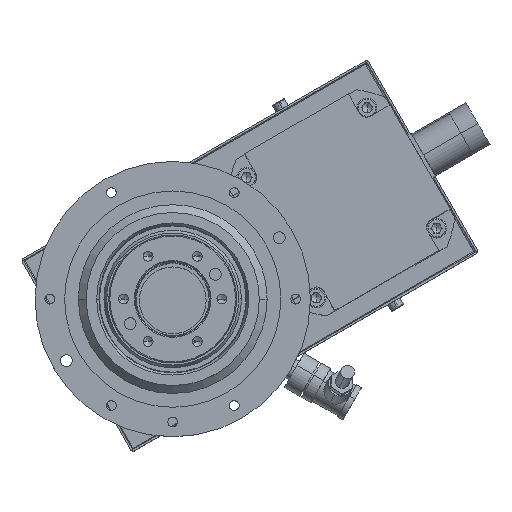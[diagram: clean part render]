
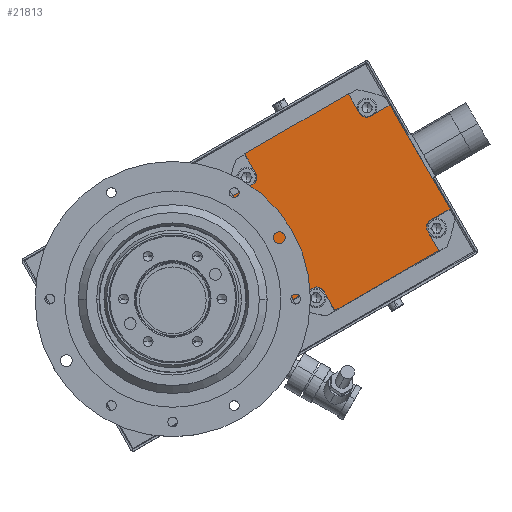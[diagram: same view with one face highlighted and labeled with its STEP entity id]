
A CAD part, top view. The second image highlights one B-rep face of the part: STEP entity #21813.
In plain terms, the highlighted planar face has unit normal (0, 0, 1).
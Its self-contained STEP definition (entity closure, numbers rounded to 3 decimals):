
#408 = DIRECTION ( 'NONE',  ( 0., 0., -1. ) ) ;
#491 = ORIENTED_EDGE ( 'NONE', *, *, #8207, .T. ) ;
#828 = ORIENTED_EDGE ( 'NONE', *, *, #12416, .T. ) ;
#874 = PLANE ( 'NONE',  #19585 ) ;
#1279 = VERTEX_POINT ( 'NONE', #26279 ) ;
#1762 = VERTEX_POINT ( 'NONE', #16811 ) ;
#1849 = DIRECTION ( 'NONE',  ( 0.866, 0.5, 0. ) ) ;
#1887 = DIRECTION ( 'NONE',  ( 0., 0., -1. ) ) ;
#2157 = ORIENTED_EDGE ( 'NONE', *, *, #5479, .T. ) ;
#2263 = CARTESIAN_POINT ( 'NONE',  ( 39.769, 55.768, -193. ) ) ;
#2407 = VECTOR ( 'NONE', #3325, 1000. ) ;
#2443 = VERTEX_POINT ( 'NONE', #2263 ) ;
#2794 = EDGE_CURVE ( 'NONE', #17137, #13187, #6261, .T. ) ;
#2921 = VERTEX_POINT ( 'NONE', #23717 ) ;
#3010 = VECTOR ( 'NONE', #20338, 1000. ) ;
#3325 = DIRECTION ( 'NONE',  ( -0.5, 0.866, 0. ) ) ;
#3326 = LINE ( 'NONE', #3617, #21941 ) ;
#3617 = CARTESIAN_POINT ( 'NONE',  ( 60.31, -2.809, -193. ) ) ;
#3721 = DIRECTION ( 'NONE',  ( 0.866, 0.5, 0. ) ) ;
#4122 = VECTOR ( 'NONE', #23599, 1000. ) ;
#4608 = ORIENTED_EDGE ( 'NONE', *, *, #23997, .T. ) ;
#5317 = ORIENTED_EDGE ( 'NONE', *, *, #27059, .F. ) ;
#5375 = CARTESIAN_POINT ( 'NONE',  ( 22.06, 63.442, -193. ) ) ;
#5479 = EDGE_CURVE ( 'NONE', #23147, #6436, #18067, .T. ) ;
#5625 = VERTEX_POINT ( 'NONE', #16293 ) ;
#5763 = VECTOR ( 'NONE', #25133, 1000. ) ;
#6261 = LINE ( 'NONE', #12033, #2407 ) ;
#6436 = VERTEX_POINT ( 'NONE', #26905 ) ;
#7159 = DIRECTION ( 'NONE',  ( -0.866, -0.5, 0. ) ) ;
#7433 = VECTOR ( 'NONE', #19458, 1000. ) ;
#7526 = CARTESIAN_POINT ( 'NONE',  ( 147.734, 29.767, -193. ) ) ;
#7632 = DIRECTION ( 'NONE',  ( 0., 0., -1. ) ) ;
#7987 = LINE ( 'NONE', #7526, #4122 ) ;
#8207 = EDGE_CURVE ( 'NONE', #11294, #9010, #11573, .T. ) ;
#8329 = VERTEX_POINT ( 'NONE', #9707 ) ;
#8498 = CIRCLE ( 'NONE', #12075, 4. ) ;
#8587 = LINE ( 'NONE', #17925, #11032 ) ;
#9010 = VERTEX_POINT ( 'NONE', #17938 ) ;
#9139 = VERTEX_POINT ( 'NONE', #18420 ) ;
#9317 = CARTESIAN_POINT ( 'NONE',  ( 109.484, 96.018, -193. ) ) ;
#9426 = CARTESIAN_POINT ( 'NONE',  ( 96.061, 88.268, -193. ) ) ;
#9638 = EDGE_LOOP ( 'NONE', ( #828, #10001, #4608, #16274, #14641, #15123, #20806, #17998, #19444, #28019, #491, #5317, #16196, #22010, #2157, #15196 ) ) ;
#9707 = CARTESIAN_POINT ( 'NONE',  ( 109.484, 96.018, -193. ) ) ;
#9878 = DIRECTION ( 'NONE',  ( 0.866, 0.5, 0. ) ) ;
#10001 = ORIENTED_EDGE ( 'NONE', *, *, #23605, .T. ) ;
#10414 = CARTESIAN_POINT ( 'NONE',  ( 130.025, 37.441, -193. ) ) ;
#10644 = CARTESIAN_POINT ( 'NONE',  ( 68.06, -16.233, -193. ) ) ;
#10913 = DIRECTION ( 'NONE',  ( 0., 0., -1. ) ) ;
#11032 = VECTOR ( 'NONE', #1849, 1000. ) ;
#11128 = EDGE_CURVE ( 'NONE', #9139, #5625, #11765, .T. ) ;
#11294 = VERTEX_POINT ( 'NONE', #10414 ) ;
#11573 = LINE ( 'NONE', #22292, #22131 ) ;
#11765 = LINE ( 'NONE', #20767, #16743 ) ;
#12033 = CARTESIAN_POINT ( 'NONE',  ( 68.06, -16.233, -193. ) ) ;
#12075 = AXIS2_PLACEMENT_3D ( 'NONE', #28239, #19126, #23732 ) ;
#12324 = EDGE_CURVE ( 'NONE', #26446, #19167, #28620, .T. ) ;
#12416 = EDGE_CURVE ( 'NONE', #1279, #21143, #26192, .T. ) ;
#12725 = CARTESIAN_POINT ( 'NONE',  ( 29.81, 50.018, -193. ) ) ;
#12890 = DIRECTION ( 'NONE',  ( -0.866, -0.5, 0. ) ) ;
#13060 = DIRECTION ( 'NONE',  ( 0.866, 0.5, 0. ) ) ;
#13187 = VERTEX_POINT ( 'NONE', #12725 ) ;
#13286 = EDGE_CURVE ( 'NONE', #1279, #6436, #8587, .T. ) ;
#13347 = DIRECTION ( 'NONE',  ( 0.866, 0.5, 0. ) ) ;
#13640 = CARTESIAN_POINT ( 'NONE',  ( 41.233, 61.232, -193. ) ) ;
#13956 = EDGE_CURVE ( 'NONE', #5625, #11294, #22439, .T. ) ;
#14172 = DIRECTION ( 'NONE',  ( -0.5, 0.866, 0. ) ) ;
#14641 = ORIENTED_EDGE ( 'NONE', *, *, #28791, .T. ) ;
#14806 = AXIS2_PLACEMENT_3D ( 'NONE', #24911, #408, #20497 ) ;
#15123 = ORIENTED_EDGE ( 'NONE', *, *, #22591, .T. ) ;
#15196 = ORIENTED_EDGE ( 'NONE', *, *, #13286, .F. ) ;
#16196 = ORIENTED_EDGE ( 'NONE', *, *, #26314, .T. ) ;
#16274 = ORIENTED_EDGE ( 'NONE', *, *, #2794, .F. ) ;
#16293 = CARTESIAN_POINT ( 'NONE',  ( 128.561, 31.976, -193. ) ) ;
#16430 = LINE ( 'NONE', #9317, #25216 ) ;
#16743 = VECTOR ( 'NONE', #14172, 1000. ) ;
#16811 = CARTESIAN_POINT ( 'NONE',  ( 99.525, 90.268, -193. ) ) ;
#17137 = VERTEX_POINT ( 'NONE', #20789 ) ;
#17492 = CARTESIAN_POINT ( 'NONE',  ( 97.525, 93.732, -193. ) ) ;
#17925 = CARTESIAN_POINT ( 'NONE',  ( 22.06, 63.442, -193. ) ) ;
#17938 = CARTESIAN_POINT ( 'NONE',  ( 139.984, 43.191, -193. ) ) ;
#17998 = ORIENTED_EDGE ( 'NONE', *, *, #22981, .F. ) ;
#18067 = LINE ( 'NONE', #9426, #5763 ) ;
#18420 = CARTESIAN_POINT ( 'NONE',  ( 134.311, 22.017, -193. ) ) ;
#18652 = DIRECTION ( 'NONE',  ( 0.5, -0.866, 0. ) ) ;
#18655 = LINE ( 'NONE', #21530, #7433 ) ;
#18756 = FACE_OUTER_BOUND ( 'NONE', #9638, .T. ) ;
#19126 = DIRECTION ( 'NONE',  ( 0., 0., -1. ) ) ;
#19167 = VERTEX_POINT ( 'NONE', #28863 ) ;
#19444 = ORIENTED_EDGE ( 'NONE', *, *, #11128, .T. ) ;
#19458 = DIRECTION ( 'NONE',  ( -0.866, -0.5, 0. ) ) ;
#19585 = AXIS2_PLACEMENT_3D ( 'NONE', #5375, #7632, #9878 ) ;
#20107 = LINE ( 'NONE', #10644, #23609 ) ;
#20338 = DIRECTION ( 'NONE',  ( 0.5, -0.866, 0. ) ) ;
#20497 = DIRECTION ( 'NONE',  ( 0.866, 0.5, 0. ) ) ;
#20767 = CARTESIAN_POINT ( 'NONE',  ( 126.561, 35.441, -193. ) ) ;
#20789 = CARTESIAN_POINT ( 'NONE',  ( 60.31, -2.809, -193. ) ) ;
#20806 = ORIENTED_EDGE ( 'NONE', *, *, #12324, .T. ) ;
#20849 = EDGE_CURVE ( 'NONE', #1762, #23147, #20898, .T. ) ;
#20898 = CIRCLE ( 'NONE', #20961, 4. ) ;
#20961 = AXIS2_PLACEMENT_3D ( 'NONE', #17492, #10913, #13060 ) ;
#21143 = VERTEX_POINT ( 'NONE', #13640 ) ;
#21285 = CARTESIAN_POINT ( 'NONE',  ( 75.733, 1.476, -193. ) ) ;
#21530 = CARTESIAN_POINT ( 'NONE',  ( 29.81, 50.018, -193. ) ) ;
#21813 = ADVANCED_FACE ( 'NONE', ( #18756 ), #874, .F. ) ;
#21941 = VECTOR ( 'NONE', #3721, 1000. ) ;
#22010 = ORIENTED_EDGE ( 'NONE', *, *, #20849, .T. ) ;
#22131 = VECTOR ( 'NONE', #24548, 1000. ) ;
#22192 = CARTESIAN_POINT ( 'NONE',  ( 72.269, -0.524, -193. ) ) ;
#22292 = CARTESIAN_POINT ( 'NONE',  ( 139.984, 43.191, -193. ) ) ;
#22439 = CIRCLE ( 'NONE', #14806, 4. ) ;
#22591 = EDGE_CURVE ( 'NONE', #2921, #26446, #26110, .T. ) ;
#22981 = EDGE_CURVE ( 'NONE', #9139, #19167, #20107, .T. ) ;
#23147 = VERTEX_POINT ( 'NONE', #27128 ) ;
#23599 = DIRECTION ( 'NONE',  ( 0.5, -0.866, 0. ) ) ;
#23605 = EDGE_CURVE ( 'NONE', #21143, #2443, #8498, .T. ) ;
#23609 = VECTOR ( 'NONE', #12890, 1000. ) ;
#23717 = CARTESIAN_POINT ( 'NONE',  ( 70.269, 2.941, -193. ) ) ;
#23732 = DIRECTION ( 'NONE',  ( 0.866, 0.5, 0. ) ) ;
#23997 = EDGE_CURVE ( 'NONE', #2443, #13187, #18655, .T. ) ;
#24548 = DIRECTION ( 'NONE',  ( 0.866, 0.5, 0. ) ) ;
#24911 = CARTESIAN_POINT ( 'NONE',  ( 132.025, 33.976, -193. ) ) ;
#25133 = DIRECTION ( 'NONE',  ( -0.5, 0.866, 0. ) ) ;
#25216 = VECTOR ( 'NONE', #7159, 1000. ) ;
#25321 = CARTESIAN_POINT ( 'NONE',  ( 43.233, 57.768, -193. ) ) ;
#26110 = CIRCLE ( 'NONE', #28423, 4. ) ;
#26192 = LINE ( 'NONE', #25321, #26537 ) ;
#26279 = CARTESIAN_POINT ( 'NONE',  ( 35.483, 71.192, -193. ) ) ;
#26314 = EDGE_CURVE ( 'NONE', #8329, #1762, #16430, .T. ) ;
#26446 = VERTEX_POINT ( 'NONE', #21285 ) ;
#26537 = VECTOR ( 'NONE', #18652, 1000. ) ;
#26905 = CARTESIAN_POINT ( 'NONE',  ( 88.311, 101.692, -193. ) ) ;
#27059 = EDGE_CURVE ( 'NONE', #8329, #9010, #7987, .T. ) ;
#27128 = CARTESIAN_POINT ( 'NONE',  ( 94.061, 91.732, -193. ) ) ;
#28019 = ORIENTED_EDGE ( 'NONE', *, *, #13956, .T. ) ;
#28239 = CARTESIAN_POINT ( 'NONE',  ( 37.769, 59.232, -193. ) ) ;
#28423 = AXIS2_PLACEMENT_3D ( 'NONE', #22192, #1887, #13347 ) ;
#28620 = LINE ( 'NONE', #29066, #3010 ) ;
#28791 = EDGE_CURVE ( 'NONE', #17137, #2921, #3326, .T. ) ;
#28863 = CARTESIAN_POINT ( 'NONE',  ( 81.483, -8.483, -193. ) ) ;
#29066 = CARTESIAN_POINT ( 'NONE',  ( 73.733, 4.941, -193. ) ) ;
